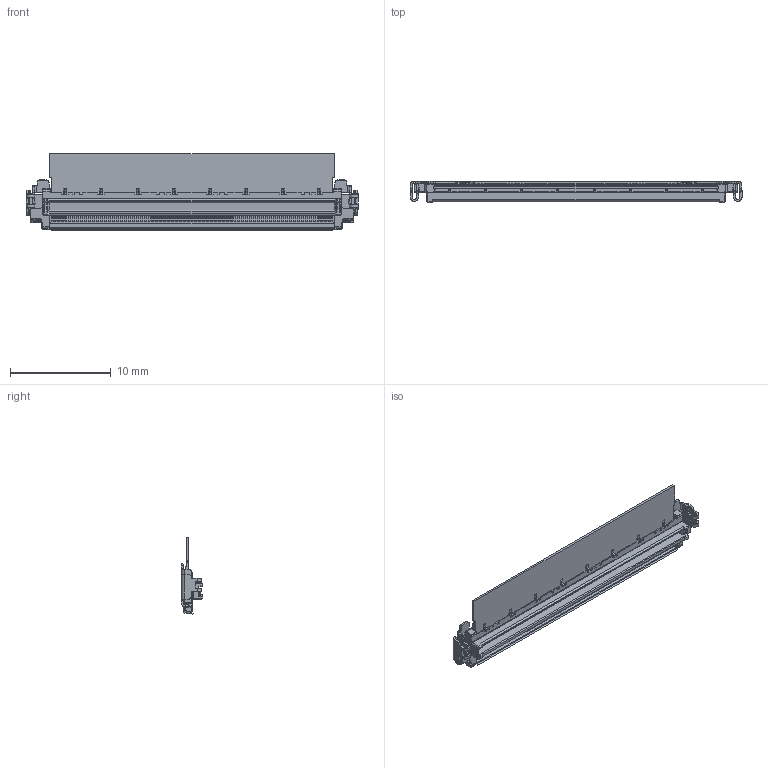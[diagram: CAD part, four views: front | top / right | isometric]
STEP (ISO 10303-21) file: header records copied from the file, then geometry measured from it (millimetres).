
FILE_DESCRIPTION (( 'STEP AP203' ), '1' );
FILE_NAME ('21102-070E-21P-PLUG FPC ASSEMBLY STEP R0R0R0.STEP', '2026-03-06T02:44:05', ( '' ), ( '' ), 'SwSTEP 2.0', 'SolidWorks 2023', '' );
FILE_SCHEMA (( 'CONFIG_CONTROL_DESIGN' ));
Products named in the file (1): 21102-070E-21P-PLUG FPC ASSEMBLY STEP R0R0R0
Bounding box: 33 x 2.14 x 7.61 mm (x, y, z)
Volume: 137.4 mm3; surface area: 857.4 mm2
Topology: 1 solids, 1 shells, 2195 faces, 6295 edges, 4168 vertices
Faces by surface type: plane 1562, cylinder 631, cone 2
Entity records: 71763 total; most frequent: CARTESIAN_POINT 13092, ORIENTED_EDGE 12590, DIRECTION 11769, EDGE_CURVE 6295, VECTOR 4933, LINE 4933, VERTEX_POINT 4168, AXIS2_PLACEMENT_3D 3418
